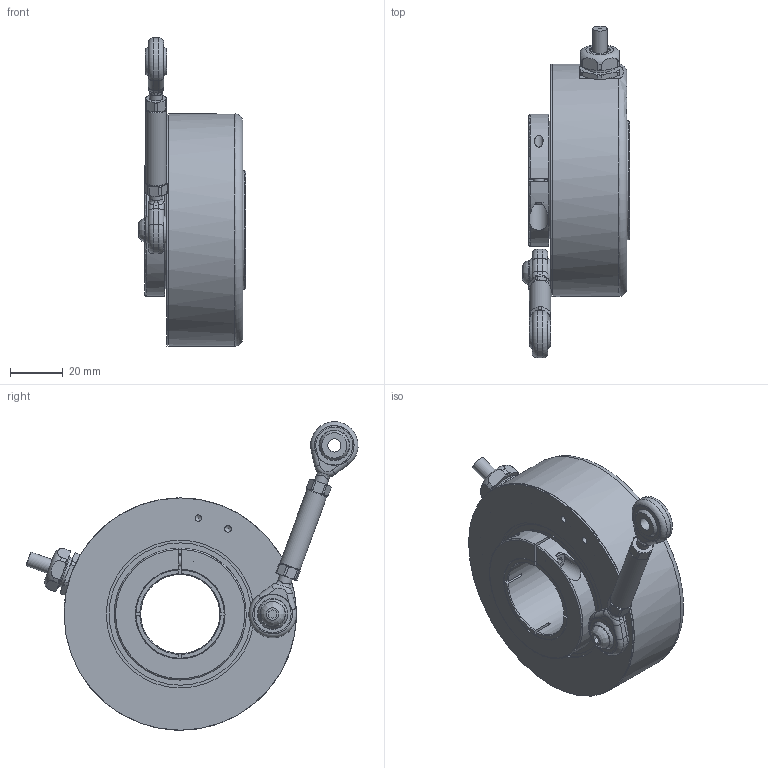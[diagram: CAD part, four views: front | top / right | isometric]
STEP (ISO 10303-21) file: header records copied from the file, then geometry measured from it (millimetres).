
FILE_DESCRIPTION( ( 'Unknown' ), '1' );
FILE_NAME( 'X:/I - Italia/UT - Ufficio Tecnico/Documenti Tecnico/Schede prodotti/InDesign/Assiemi SolidEdge per cataloghi/STEP ASSIEMI/EH88PET.stp', 'Unknown', ( 'Unknown' ), ( 'Unknown' ), 'PSStep 17.0.49', 'Unknown', ' ' );
FILE_SCHEMA( ( 'AUTOMOTIVE_DESIGN { 1 0 10303 214 1 1 1 1 }' ) );
Length unit declared in the file: millimetre
Products named in the file (66): 23310098A1 - assemblato generale; 23310098A1 -  corpo centrale; 23310098A1 - dado Pg7; 23310098A1 -  controdado; 23310098A1; Assem1; 21140024-heds 9140 G 00; 23300005 - UNI 6107 M2.5x16; 23300005 - UNI 6107 M2.5x16-oa0; 23300005 - UNI 6107 M2.5x16-oa1; 23300061 - UNI 5931 M4x10 TCEI Br.; 23300008; 23300008-oa2; LT11001PB04 - vite testa bottone M5x12 UNI-ISO 7380 inox; 44010072; Dado M5; Dado M5-oa3; 23300424 - VTCBCE M4 x 20; 23300424 - VTCBCE M4 x 20-oa4; 23290050 - Cuscinetto 6809 58x45x7; 23290050 - Cuscinetto 6809 58x45x7-oa5; 41320625E1; 41890211D1; 44010183A1; cavo_dritto; 41330366
Assembly tree (65 placements, depth 3):
  Assem1
    21140024-heds 9140 G 00
    23300005 - UNI 6107 M2.5x16
    23300005 - UNI 6107 M2.5x16-oa0
    23300005 - UNI 6107 M2.5x16-oa1
    23300061 - UNI 5931 M4x10 TCEI Br.
    23300008
    23300008-oa2
    LT11001PB04 - vite testa bottone M5x12 UNI-ISO 7380 inox
    44010072
    Dado M5
    Dado M5-oa3
    23300424 - VTCBCE M4 x 20
    23300424 - VTCBCE M4 x 20-oa4
    23290050 - Cuscinetto 6809 58x45x7
    23290050 - Cuscinetto 6809 58x45x7
    23290050 - Cuscinetto 6809 58x45x7
    23290050 - Cuscinetto 6809 58x45x7
    23290050 - Cuscinetto 6809 58x45x7
    23290050 - Cuscinetto 6809 58x45x7
    23290050 - Cuscinetto 6809 58x45x7
    23290050 - Cuscinetto 6809 58x45x7
    23290050 - Cuscinetto 6809 58x45x7
    23290050 - Cuscinetto 6809 58x45x7
    23290050 - Cuscinetto 6809 58x45x7
    23290050 - Cuscinetto 6809 58x45x7
    23290050 - Cuscinetto 6809 58x45x7
    23290050 - Cuscinetto 6809 58x45x7
    23290050 - Cuscinetto 6809 58x45x7
    23290050 - Cuscinetto 6809 58x45x7
    23290050 - Cuscinetto 6809 58x45x7
    23290050 - Cuscinetto 6809 58x45x7
    23290050 - Cuscinetto 6809 58x45x7
    23290050 - Cuscinetto 6809 58x45x7
    23290050 - Cuscinetto 6809 58x45x7
    23290050 - Cuscinetto 6809 58x45x7-oa5
    23290050 - Cuscinetto 6809 58x45x7-oa5
    23290050 - Cuscinetto 6809 58x45x7-oa5
    23290050 - Cuscinetto 6809 58x45x7-oa5
    23290050 - Cuscinetto 6809 58x45x7-oa5
    23290050 - Cuscinetto 6809 58x45x7-oa5
    23290050 - Cuscinetto 6809 58x45x7-oa5
    23290050 - Cuscinetto 6809 58x45x7-oa5
    23290050 - Cuscinetto 6809 58x45x7-oa5
    23290050 - Cuscinetto 6809 58x45x7-oa5
    23290050 - Cuscinetto 6809 58x45x7-oa5
    23290050 - Cuscinetto 6809 58x45x7-oa5
    23290050 - Cuscinetto 6809 58x45x7-oa5
    23290050 - Cuscinetto 6809 58x45x7-oa5
    23290050 - Cuscinetto 6809 58x45x7-oa5
    23290050 - Cuscinetto 6809 58x45x7-oa5
    23290050 - Cuscinetto 6809 58x45x7-oa5
    23290050 - Cuscinetto 6809 58x45x7-oa5
    23290050 - Cuscinetto 6809 58x45x7-oa5
    23290050 - Cuscinetto 6809 58x45x7-oa5
    23290050 - Cuscinetto 6809 58x45x7-oa5
    41320625E1
    41890211D1
    44010183A1
    cavo_dritto
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Bounding box: 40.75 x 125.75 x 116.83 mm (x, y, z)
Volume: 105475.8 mm3; surface area: 77683 mm2
Topology: 64 solids, 66 shells, 675 faces, 1647 edges, 1068 vertices
Faces by surface type: plane 284, cylinder 167, cone 110, torus 61, sphere 44, bspline 9
Full cylindrical faces by diameter (mm): 1 x1, 2.013 x6, 2.459 x2, 2.5 x3, 2.7 x2, 3.242 x3, 4 x3, 4.134 x3, 4.2 x4, 5 x5, 5.5 x2, 7 x3, 7.2 x1, 7.5 x1, 7.7 x1, 8 x1, 8.2 x2, 8.917 x1, 10 x2, 11.4 x4, 11.5 x1, 11.89 x1, 12.5 x1, 15 x4, 30 x1, 45 x4, 46.4 x1, 47 x2, 49.1 x4, 50 x1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
Entity records: 27532 total; most frequent: CARTESIAN_POINT 6561, DIRECTION 3083, ORIENTED_EDGE 2610, EDGE_CURVE 1305, AXIS2_PLACEMENT_3D 1254, VERTEX_POINT 1034, EDGE_LOOP 907, FACE_OUTER_BOUND 764
